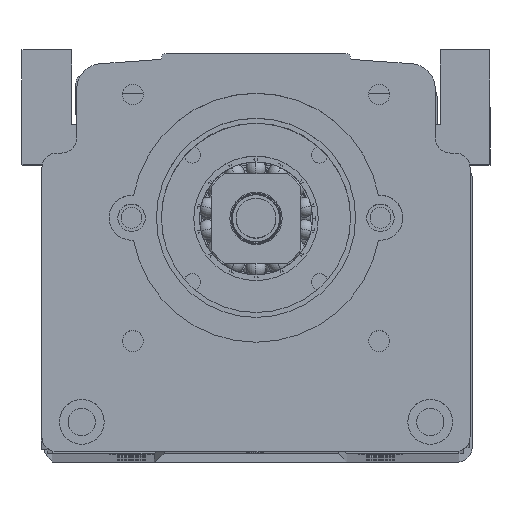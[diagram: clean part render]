
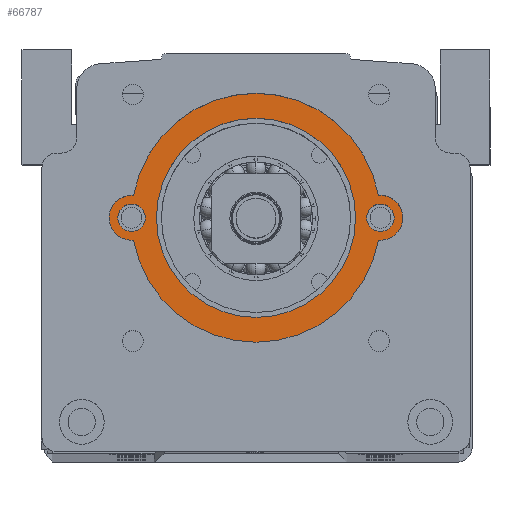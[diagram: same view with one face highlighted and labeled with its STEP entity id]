
A CAD part, top view. The second image highlights one B-rep face of the part: STEP entity #66787.
In plain terms, the highlighted planar face has unit normal (0, 0, 1).
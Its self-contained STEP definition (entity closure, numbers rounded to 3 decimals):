
#615 = DIRECTION ( 'NONE',  ( 0., 0., 1. ) ) ;
#2011 = DIRECTION ( 'NONE',  ( 0., 0., 1. ) ) ;
#2827 = AXIS2_PLACEMENT_3D ( 'NONE', #55314, #20527, #61168 ) ;
#3982 = ORIENTED_EDGE ( 'NONE', *, *, #20017, .F. ) ;
#4137 = CIRCLE ( 'NONE', #27807, 2.75 ) ;
#4691 = AXIS2_PLACEMENT_3D ( 'NONE', #35381, #615, #41208 ) ;
#4865 = EDGE_LOOP ( 'NONE', ( #3982, #24651 ) ) ;
#5808 = AXIS2_PLACEMENT_3D ( 'NONE', #36787, #2011, #42590 ) ;
#6073 = DIRECTION ( 'NONE',  ( 0., 0., 1. ) ) ;
#6613 = EDGE_LOOP ( 'NONE', ( #43011, #24803 ) ) ;
#6906 = CARTESIAN_POINT ( 'NONE',  ( 16.857, 5.327, 7. ) ) ;
#7593 = EDGE_LOOP ( 'NONE', ( #56167, #14572, #51141, #50871, #14918 ) ) ;
#7627 = CIRCLE ( 'NONE', #5808, 25. ) ;
#7651 = VERTEX_POINT ( 'NONE', #40587 ) ;
#7682 = DIRECTION ( 'NONE',  ( 0., 0., 1. ) ) ;
#8953 = VERTEX_POINT ( 'NONE', #11430 ) ;
#9116 = CIRCLE ( 'NONE', #46569, 4.5 ) ;
#9239 = CARTESIAN_POINT ( 'NONE',  ( 19.607, 5.327, 7. ) ) ;
#9382 = CIRCLE ( 'NONE', #74302, 20. ) ;
#9471 = DIRECTION ( 'NONE',  ( 0., 0., 1. ) ) ;
#11430 = CARTESIAN_POINT ( 'NONE',  ( 21.357, 5.327, 7. ) ) ;
#12697 = DIRECTION ( 'NONE',  ( 1., 0., 0. ) ) ;
#13017 = DIRECTION ( 'NONE',  ( 1., 0., 0. ) ) ;
#13555 = DIRECTION ( 'NONE',  ( 0., 0., 1. ) ) ;
#13727 = CARTESIAN_POINT ( 'NONE',  ( -32.738, 0.845, 7. ) ) ;
#13884 = EDGE_CURVE ( 'NONE', #20231, #7651, #7627, .T. ) ;
#14273 = EDGE_CURVE ( 'NONE', #38657, #61893, #9382, .T. ) ;
#14572 = ORIENTED_EDGE ( 'NONE', *, *, #13884, .T. ) ;
#14918 = ORIENTED_EDGE ( 'NONE', *, *, #54003, .T. ) ;
#18112 = CIRCLE ( 'NONE', #66051, 2.75 ) ;
#19356 = CARTESIAN_POINT ( 'NONE',  ( 16.857, 5.327, 7. ) ) ;
#19447 = DIRECTION ( 'NONE',  ( 0., 0., 1. ) ) ;
#20017 = EDGE_CURVE ( 'NONE', #61893, #38657, #46019, .T. ) ;
#20168 = VERTEX_POINT ( 'NONE', #42413 ) ;
#20231 = VERTEX_POINT ( 'NONE', #13727 ) ;
#20527 = DIRECTION ( 'NONE',  ( 0., 0., 1. ) ) ;
#21381 = CIRCLE ( 'NONE', #24156, 2.75 ) ;
#23269 = CARTESIAN_POINT ( 'NONE',  ( -32.738, 9.808, 7. ) ) ;
#24139 = CARTESIAN_POINT ( 'NONE',  ( 16.857, 5.327, 7. ) ) ;
#24156 = AXIS2_PLACEMENT_3D ( 'NONE', #24139, #64754, #29939 ) ;
#24651 = ORIENTED_EDGE ( 'NONE', *, *, #14273, .F. ) ;
#24803 = ORIENTED_EDGE ( 'NONE', *, *, #55670, .F. ) ;
#25207 = DIRECTION ( 'NONE',  ( 1., 0., 0. ) ) ;
#25228 = FACE_BOUND ( 'NONE', #4865, .T. ) ;
#27807 = AXIS2_PLACEMENT_3D ( 'NONE', #42416, #7682, #48229 ) ;
#28807 = VERTEX_POINT ( 'NONE', #9239 ) ;
#29939 = DIRECTION ( 'NONE',  ( 1., 0., 0. ) ) ;
#32011 = EDGE_CURVE ( 'NONE', #7651, #8953, #9116, .T. ) ;
#35381 = CARTESIAN_POINT ( 'NONE',  ( -8.143, 5.327, 7. ) ) ;
#36787 = CARTESIAN_POINT ( 'NONE',  ( -8.143, 5.327, 7. ) ) ;
#38604 = CIRCLE ( 'NONE', #73697, 25. ) ;
#38657 = VERTEX_POINT ( 'NONE', #61542 ) ;
#40300 = ORIENTED_EDGE ( 'NONE', *, *, #54394, .F. ) ;
#40587 = CARTESIAN_POINT ( 'NONE',  ( 16.452, 0.845, 7. ) ) ;
#40724 = FACE_BOUND ( 'NONE', #45012, .T. ) ;
#40797 = CARTESIAN_POINT ( 'NONE',  ( -8.143, 5.327, 7. ) ) ;
#41208 = DIRECTION ( 'NONE',  ( 1., 0., 0. ) ) ;
#41458 = VERTEX_POINT ( 'NONE', #63203 ) ;
#42413 = CARTESIAN_POINT ( 'NONE',  ( 16.452, 9.808, 7. ) ) ;
#42416 = CARTESIAN_POINT ( 'NONE',  ( -33.143, 5.327, 7. ) ) ;
#42590 = DIRECTION ( 'NONE',  ( 1., 0., 0. ) ) ;
#43011 = ORIENTED_EDGE ( 'NONE', *, *, #70302, .F. ) ;
#44207 = CARTESIAN_POINT ( 'NONE',  ( -8.143, 5.327, 7. ) ) ;
#45012 = EDGE_LOOP ( 'NONE', ( #48430, #40300 ) ) ;
#45333 = CIRCLE ( 'NONE', #72913, 4.5 ) ;
#45748 = EDGE_CURVE ( 'NONE', #8953, #20168, #66835, .T. ) ;
#46019 = CIRCLE ( 'NONE', #4691, 20. ) ;
#46569 = AXIS2_PLACEMENT_3D ( 'NONE', #6906, #47464, #12697 ) ;
#46621 = DIRECTION ( 'NONE',  ( 1., 0., 0. ) ) ;
#46683 = CARTESIAN_POINT ( 'NONE',  ( -35.893, 5.327, 7. ) ) ;
#47464 = DIRECTION ( 'NONE',  ( 0., 0., 1. ) ) ;
#47529 = CARTESIAN_POINT ( 'NONE',  ( -33.143, 5.327, 7. ) ) ;
#47768 = DIRECTION ( 'NONE',  ( 0., 0., 1. ) ) ;
#48229 = DIRECTION ( 'NONE',  ( 1., 0., 0. ) ) ;
#48311 = CARTESIAN_POINT ( 'NONE',  ( 16.857, 5.327, 7. ) ) ;
#48430 = ORIENTED_EDGE ( 'NONE', *, *, #66171, .F. ) ;
#50030 = DIRECTION ( 'NONE',  ( 1., 0., 0. ) ) ;
#50871 = ORIENTED_EDGE ( 'NONE', *, *, #45748, .T. ) ;
#51141 = ORIENTED_EDGE ( 'NONE', *, *, #32011, .T. ) ;
#54003 = EDGE_CURVE ( 'NONE', #20168, #61004, #38604, .T. ) ;
#54177 = DIRECTION ( 'NONE',  ( 1., 0., 0. ) ) ;
#54243 = CARTESIAN_POINT ( 'NONE',  ( -33.143, 5.327, 7. ) ) ;
#54394 = EDGE_CURVE ( 'NONE', #28807, #64245, #21381, .T. ) ;
#55314 = CARTESIAN_POINT ( 'NONE',  ( -33.143, 5.327, 7. ) ) ;
#55670 = EDGE_CURVE ( 'NONE', #41458, #57627, #60173, .T. ) ;
#56117 = FACE_BOUND ( 'NONE', #6613, .T. ) ;
#56167 = ORIENTED_EDGE ( 'NONE', *, *, #58218, .T. ) ;
#57627 = VERTEX_POINT ( 'NONE', #46683 ) ;
#58218 = EDGE_CURVE ( 'NONE', #61004, #20231, #45333, .T. ) ;
#59984 = DIRECTION ( 'NONE',  ( 0., 0., 1. ) ) ;
#60075 = DIRECTION ( 'NONE',  ( 1., 0., 0. ) ) ;
#60173 = CIRCLE ( 'NONE', #2827, 2.75 ) ;
#61004 = VERTEX_POINT ( 'NONE', #23269 ) ;
#61138 = AXIS2_PLACEMENT_3D ( 'NONE', #19356, #59984, #25207 ) ;
#61168 = DIRECTION ( 'NONE',  ( 1., 0., 0. ) ) ;
#61542 = CARTESIAN_POINT ( 'NONE',  ( 11.857, 5.327, 7. ) ) ;
#61893 = VERTEX_POINT ( 'NONE', #66827 ) ;
#63203 = CARTESIAN_POINT ( 'NONE',  ( -30.393, 5.327, 7. ) ) ;
#64245 = VERTEX_POINT ( 'NONE', #73914 ) ;
#64754 = DIRECTION ( 'NONE',  ( 0., 0., 1. ) ) ;
#66051 = AXIS2_PLACEMENT_3D ( 'NONE', #48311, #13555, #54177 ) ;
#66171 = EDGE_CURVE ( 'NONE', #64245, #28807, #18112, .T. ) ;
#66787 = ADVANCED_FACE ( 'NONE', ( #56117, #71551, #40724, #25228 ), #70872, .T. ) ;
#66827 = CARTESIAN_POINT ( 'NONE',  ( -28.143, 5.327, 7. ) ) ;
#66835 = CIRCLE ( 'NONE', #61138, 4.5 ) ;
#70302 = EDGE_CURVE ( 'NONE', #57627, #41458, #4137, .T. ) ;
#70872 = PLANE ( 'NONE',  #74834 ) ;
#71551 = FACE_OUTER_BOUND ( 'NONE', #7593, .T. ) ;
#72913 = AXIS2_PLACEMENT_3D ( 'NONE', #54243, #19447, #60075 ) ;
#73697 = AXIS2_PLACEMENT_3D ( 'NONE', #44207, #9471, #50030 ) ;
#73914 = CARTESIAN_POINT ( 'NONE',  ( 14.107, 5.327, 7. ) ) ;
#74302 = AXIS2_PLACEMENT_3D ( 'NONE', #40797, #6073, #46621 ) ;
#74834 = AXIS2_PLACEMENT_3D ( 'NONE', #47529, #47768, #13017 ) ;
